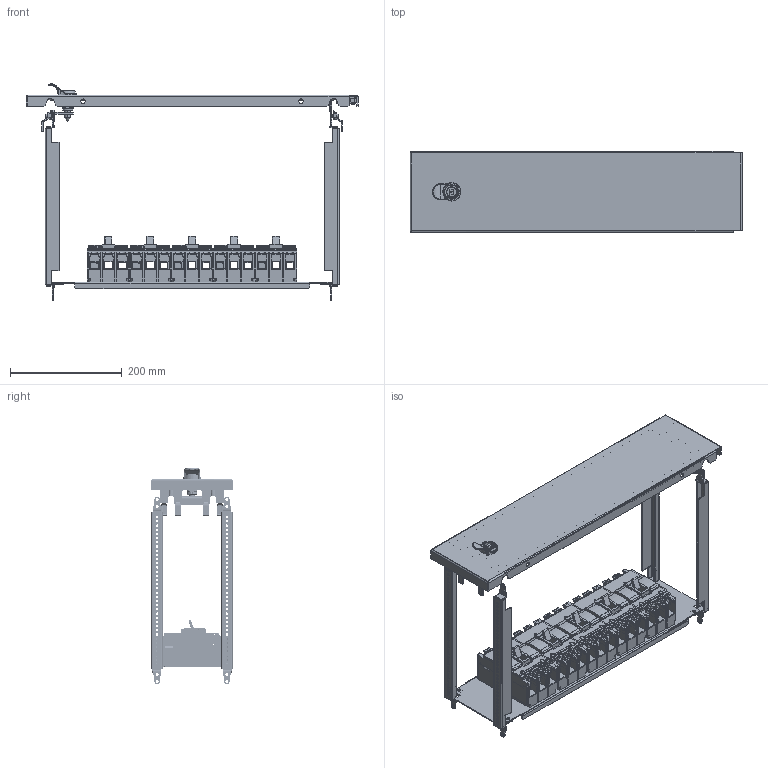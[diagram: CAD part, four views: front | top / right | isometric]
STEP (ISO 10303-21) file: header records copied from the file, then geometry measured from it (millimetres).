
FILE_DESCRIPTION(('CAx-IF Rec.Pracs.---Model Styling and Organization---1.2---2011-12-15','CAx-IF Rec.Pracs.---Geometric and Assembly Validation Properties---4.1---2014-06-16','CAx-IF Rec.Pracs.---PMI Polyline Presentation---2.0---2013-05-24'),'2;1');
FILE_NAME('R5PKEB7V61111.stp','2021-07-29T02:16:37+03:00',(''),(''),'STEP Interface 4.4 by CT CoreTechnologie','3D_Evolution4.4 by CT CoreTechnologie','');
FILE_SCHEMA(('AUTOMOTIVE_DESIGN { 1 0 10303 214 1 1 1 1 }'));
Length unit declared in the file: millimetre
Products named in the file (1): R5PKEB7V61111
Bounding box: 594 x 145 x 386.9 mm (x, y, z)
Surface area: 937777.8 mm2 (no closed solid volume)
Topology: 0 solids, 125 shells, 4967 faces, 16361 edges, 11326 vertices
Faces by surface type: plane 2871, cylinder 1691, bspline 405
Entity records: 190700 total; most frequent: CARTESIAN_POINT 47539, DIRECTION 29000, ORIENTED_EDGE 28905, EDGE_CURVE 16310, VECTOR 11714, LINE 11714, VERTEX_POINT 11326, AXIS2_PLACEMENT_3D 8643
